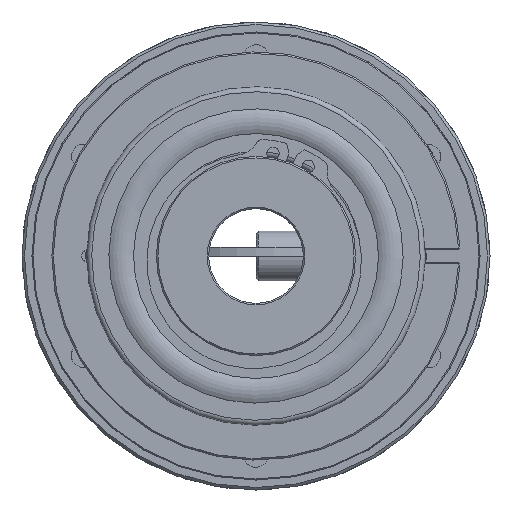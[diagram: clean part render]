
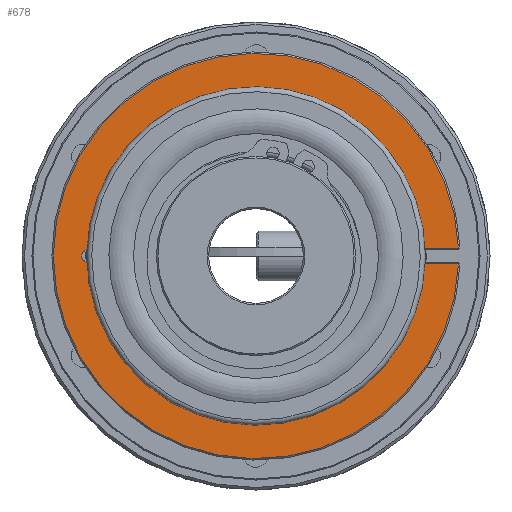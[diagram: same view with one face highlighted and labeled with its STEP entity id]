
A CAD part, left-side view. The second image highlights one B-rep face of the part: STEP entity #678.
In plain terms, the highlighted planar face has unit normal (-1, 0, 0).
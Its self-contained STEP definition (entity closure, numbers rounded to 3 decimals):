
#678 = ADVANCED_FACE( '', ( #1181 ), #1182, .F. );
#1181 = FACE_OUTER_BOUND( '', #1592, .T. );
#1182 = PLANE( '', #1593 );
#1592 = EDGE_LOOP( '', ( #2477, #2478, #2479, #2480, #2481, #2482, #2483, #2484 ) );
#1593 = AXIS2_PLACEMENT_3D( '', #2485, #2486, #2487 );
#2477 = ORIENTED_EDGE( '', *, *, #2714, .F. );
#2478 = ORIENTED_EDGE( '', *, *, #2745, .T. );
#2479 = ORIENTED_EDGE( '', *, *, #2759, .T. );
#2480 = ORIENTED_EDGE( '', *, *, #2761, .T. );
#2481 = ORIENTED_EDGE( '', *, *, #2748, .T. );
#2482 = ORIENTED_EDGE( '', *, *, #2704, .T. );
#2483 = ORIENTED_EDGE( '', *, *, #2738, .F. );
#2484 = ORIENTED_EDGE( '', *, *, #2763, .T. );
#2485 = CARTESIAN_POINT( '', ( -21., 41., 0. ) );
#2486 = DIRECTION( '', ( 1., 0., 0. ) );
#2487 = DIRECTION( '', ( 0., 1., 0. ) );
#2704 = EDGE_CURVE( '', #3116, #3114, #3117, .T. );
#2714 = EDGE_CURVE( '', #3133, #3134, #3135, .F. );
#2738 = EDGE_CURVE( '', #3173, #3114, #3175, .F. );
#2745 = EDGE_CURVE( '', #3133, #3188, #3189, .T. );
#2748 = EDGE_CURVE( '', #3193, #3116, #3194, .T. );
#2759 = EDGE_CURVE( '', #3188, #3210, #3212, .T. );
#2761 = EDGE_CURVE( '', #3210, #3193, #3214, .F. );
#2763 = EDGE_CURVE( '', #3173, #3134, #3216, .T. );
#3114 = VERTEX_POINT( '', #3882 );
#3116 = VERTEX_POINT( '', #3887 );
#3117 = CIRCLE( '', #3888, 21.3 );
#3133 = VERTEX_POINT( '', #3918 );
#3134 = VERTEX_POINT( '', #3919 );
#3135 = LINE( '', #3920, #3921 );
#3173 = VERTEX_POINT( '', #4081 );
#3175 = LINE( '', #4084, #4085 );
#3188 = VERTEX_POINT( '', #4165 );
#3189 = CIRCLE( '', #4166, 21.3 );
#3193 = VERTEX_POINT( '', #4174 );
#3194 = LINE( '', #4175, #4176 );
#3210 = VERTEX_POINT( '', #4202 );
#3212 = LINE( '', #4207, #4208 );
#3214 = CIRCLE( '', #4213, 40.7 );
#3216 = CIRCLE( '', #4218, 1.3 );
#3882 = CARTESIAN_POINT( '', ( -21., 21.26, -1.3 ) );
#3887 = CARTESIAN_POINT( '', ( -21., -21.24, -1.6 ) );
#3888 = AXIS2_PLACEMENT_3D( '', #4581, #4582, #4583 );
#3918 = CARTESIAN_POINT( '', ( -21., 21.26, 1.3 ) );
#3919 = CARTESIAN_POINT( '', ( -21., 33.7, 1.3 ) );
#3920 = CARTESIAN_POINT( '', ( -21., 35., 1.3 ) );
#3921 = VECTOR( '', #4592, 1000. );
#4081 = CARTESIAN_POINT( '', ( -21., 33.7, -1.3 ) );
#4084 = CARTESIAN_POINT( '', ( -21., 35., -1.3 ) );
#4085 = VECTOR( '', #4620, 1000. );
#4165 = CARTESIAN_POINT( '', ( -21., -21.24, 1.6 ) );
#4166 = AXIS2_PLACEMENT_3D( '', #4632, #4633, #4634 );
#4174 = CARTESIAN_POINT( '', ( -21., -40.669, -1.6 ) );
#4175 = CARTESIAN_POINT( '', ( -21., 41., -1.6 ) );
#4176 = VECTOR( '', #4636, 1000. );
#4202 = CARTESIAN_POINT( '', ( -21., -40.669, 1.6 ) );
#4207 = CARTESIAN_POINT( '', ( -21., 41., 1.6 ) );
#4208 = VECTOR( '', #4647, 1000. );
#4213 = AXIS2_PLACEMENT_3D( '', #4648, #4649, #4650 );
#4218 = AXIS2_PLACEMENT_3D( '', #4651, #4652, #4653 );
#4581 = CARTESIAN_POINT( '', ( -21., 0., 0. ) );
#4582 = DIRECTION( '', ( 1., 0., 0. ) );
#4583 = DIRECTION( '', ( 0., 0., -1. ) );
#4592 = DIRECTION( '', ( 0., -1., 0. ) );
#4620 = DIRECTION( '', ( 0., 1., 0. ) );
#4632 = CARTESIAN_POINT( '', ( -21., 0., 0. ) );
#4633 = DIRECTION( '', ( 1., 0., 0. ) );
#4634 = DIRECTION( '', ( 0., 0., -1. ) );
#4636 = DIRECTION( '', ( 0., 1., 0. ) );
#4647 = DIRECTION( '', ( 0., -1., 0. ) );
#4648 = CARTESIAN_POINT( '', ( -21., 0., 0. ) );
#4649 = DIRECTION( '', ( 1., 0., 0. ) );
#4650 = DIRECTION( '', ( 0., 0., -1. ) );
#4651 = CARTESIAN_POINT( '', ( -21., 33.7, 0. ) );
#4652 = DIRECTION( '', ( 1., 0., 0. ) );
#4653 = DIRECTION( '', ( 0., 0., -1. ) );
